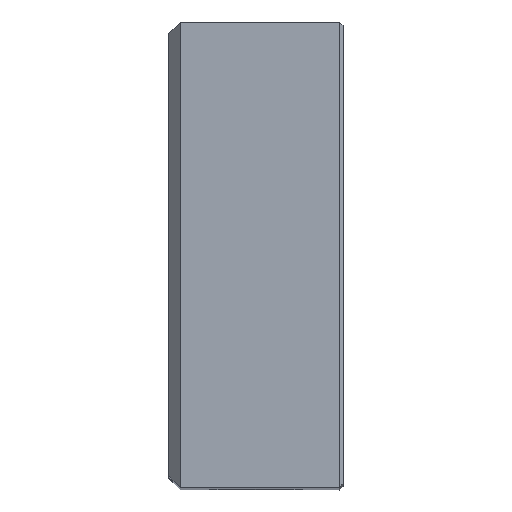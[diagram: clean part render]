
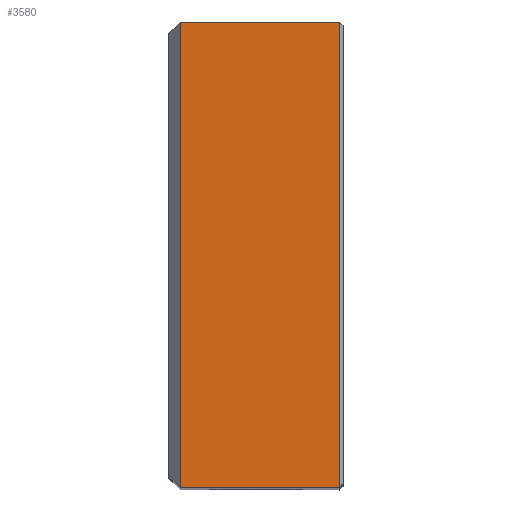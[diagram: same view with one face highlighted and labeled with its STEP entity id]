
A CAD part, top view. The second image highlights one B-rep face of the part: STEP entity #3580.
In plain terms, the highlighted planar face has unit normal (0, 0, 1).
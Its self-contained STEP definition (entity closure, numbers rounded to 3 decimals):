
#307=VERTEX_POINT(' ',#308);
#308=CARTESIAN_POINT('',(44.,-60.,0.));
#317=VERTEX_POINT(' ',#318);
#318=CARTESIAN_POINT('',(44.,60.,0.));
#351=VERTEX_POINT(' ',#352);
#352=CARTESIAN_POINT('',(3.,-60.,0.));
#359=VERTEX_POINT(' ',#360);
#360=CARTESIAN_POINT('',(3.,60.,0.));
#1729=LINE('',#1730,#1731);
#1730=CARTESIAN_POINT('',(44.,65.657,0.));
#1731=VECTOR('',#1732,1.);
#1732=DIRECTION('',(0.,-1.,0.));
#1733=EDGE_CURVE(' ',#317,#307,#1729,.T.);
#1893=LINE('',#1894,#1895);
#1894=CARTESIAN_POINT('',(45.12,-60.,0.));
#1895=VECTOR('',#1896,1.);
#1896=DIRECTION('',(-1.,0.,0.));
#1897=EDGE_CURVE(' ',#307,#351,#1893,.T.);
#1932=LINE('',#1933,#1934);
#1933=CARTESIAN_POINT('',(3.,-73.971,0.));
#1934=VECTOR('',#1935,1.);
#1935=DIRECTION('',(0.,1.,0.));
#1936=EDGE_CURVE(' ',#351,#359,#1932,.T.);
#1937=LINE('',#1938,#1939);
#1938=CARTESIAN_POINT('',(45.12,60.,0.));
#1939=VECTOR('',#1940,1.);
#1940=DIRECTION('',(-1.,0.,0.));
#1941=EDGE_CURVE(' ',#317,#359,#1937,.T.);
#3569=ORIENTED_EDGE('',*,*,#1936,.F.);
#3570=ORIENTED_EDGE('',*,*,#1897,.F.);
#3571=ORIENTED_EDGE('',*,*,#1733,.F.);
#3572=ORIENTED_EDGE('',*,*,#1941,.T.);
#3573=EDGE_LOOP('',(#3569,#3570,#3571,#3572));
#3574=FACE_OUTER_BOUND('',#3573,.T.);
#3575=PLANE('',#3576);
#3576=AXIS2_PLACEMENT_3D('',#3577,#3578,#3579);
#3577=CARTESIAN_POINT('',(0.,-60.,0.));
#3578=DIRECTION('',(0.,0.,1.));
#3579=DIRECTION('',(0.,1.,0.));
#3580=ADVANCED_FACE('',(#3574),#3575,.T.);
